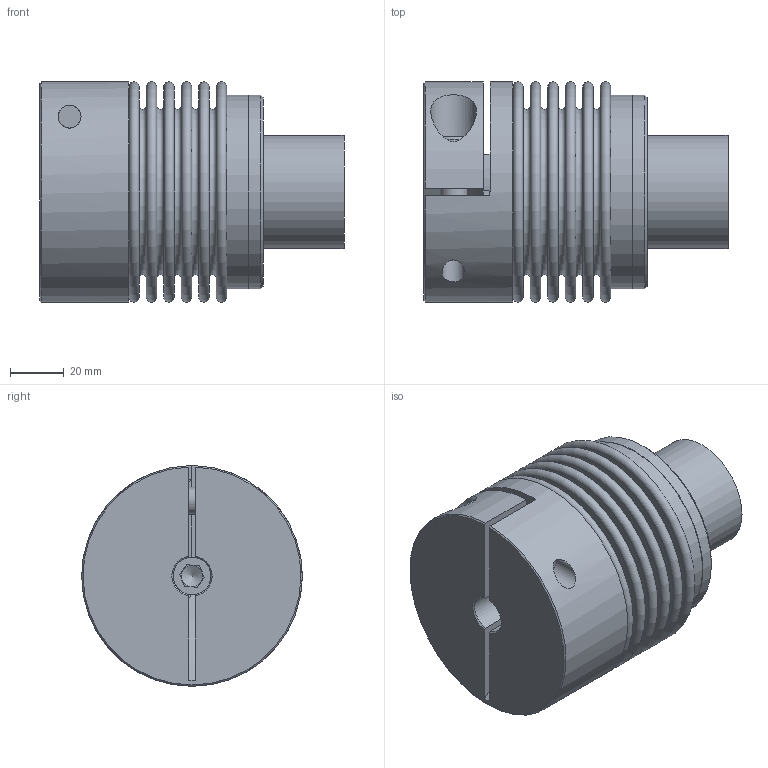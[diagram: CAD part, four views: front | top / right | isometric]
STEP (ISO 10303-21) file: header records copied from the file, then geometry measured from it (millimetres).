
FILE_DESCRIPTION( ( 'Unknown' ), '1' );
FILE_NAME( 'K:/Konstruktion/KB8/HP/KB8-150-83.stp', 'Unknown', ( 'Unknown' ), ( 'Unknown' ), 'PSStep 16.0.42', 'Unknown', ' ' );
FILE_SCHEMA( ( 'AUTOMOTIVE_DESIGN { 1 0 10303 214 1 1 1 1 }' ) );
Length unit declared in the file: millimetre
Products named in the file (6): Assem1; BL80-150_Standard_2; KN80-150_Standard_4; Spreiznabe150; Socket Head Cap Screw_DIN_DIN 912 M10 x 35 --- 35C; Socket Head Cap Screw_DIN_DIN 912 M10 x 30 --- 30N
Assembly tree (5 placements, depth 2):
  Assem1
    BL80-150_Standard_2
    KN80-150_Standard_4
    Spreiznabe150
    Socket Head Cap Screw_DIN_DIN 912 M10 x 35 --- 35C
    Socket Head Cap Screw_DIN_DIN 912 M10 x 30 --- 30N
Bounding box: 113 x 82 x 82 mm (x, y, z)
Volume: 273173.5 mm3; surface area: 116521.6 mm2
Topology: 5 solids, 5 shells, 128 faces, 250 edges, 162 vertices
Faces by surface type: plane 73, torus 26, cylinder 21, cone 8
Full cylindrical faces by diameter (mm): 8.5 x1, 10 x4, 10.5 x1, 14 x1, 16 x2, 17 x1, 18 x1, 42 x1, 70.5 x1, 70.7 x2, 71.9 x3, 82 x1
Entity records: 4307 total; most frequent: CARTESIAN_POINT 665, DIRECTION 561, ORIENTED_EDGE 378, AXIS2_PLACEMENT_3D 247, EDGE_LOOP 218, EDGE_CURVE 189, FACE_OUTER_BOUND 173, VERTEX_POINT 165
